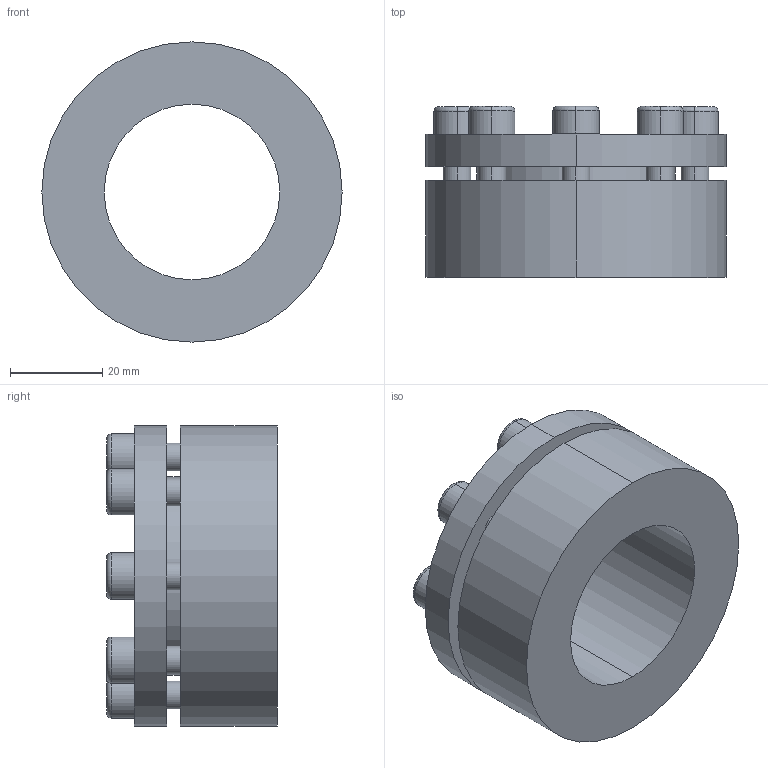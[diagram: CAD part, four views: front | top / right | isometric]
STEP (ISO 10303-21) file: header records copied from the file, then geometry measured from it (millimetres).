
FILE_DESCRIPTION (( 'STEP AP203' ), '1' );
FILE_NAME ('PL-H1 38-65.STEP', '2021-10-23T00:54:02', ( '' ), ( '' ), 'SwSTEP 2.0', 'SolidWorks 2018', '' );
FILE_SCHEMA (( 'CONFIG_CONTROL_DESIGN' ));
Length unit declared in the file: millimetre
Products named in the file (1): PL-H1 38-65
Bounding box: 65 x 37 x 65 mm (x, y, z)
Volume: 65989 mm3; surface area: 19736.6 mm2
Topology: 1 solids, 1 shells, 124 faces, 296 edges, 192 vertices
Faces by surface type: plane 68, cylinder 40, torus 16
Entity records: 3717 total; most frequent: DIRECTION 658, CARTESIAN_POINT 613, ORIENTED_EDGE 592, EDGE_CURVE 296, AXIS2_PLACEMENT_3D 237, VERTEX_POINT 192, VECTOR 184, LINE 184
